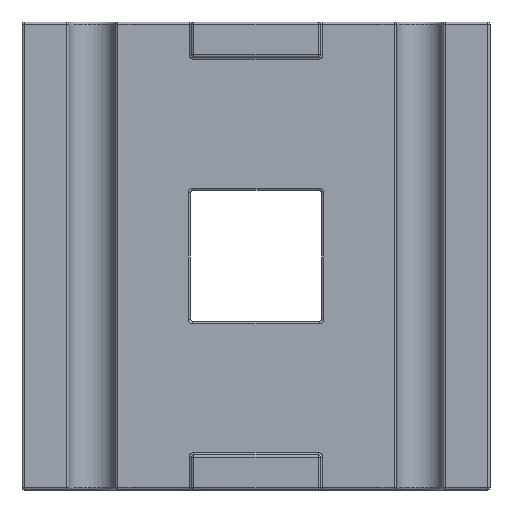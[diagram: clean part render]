
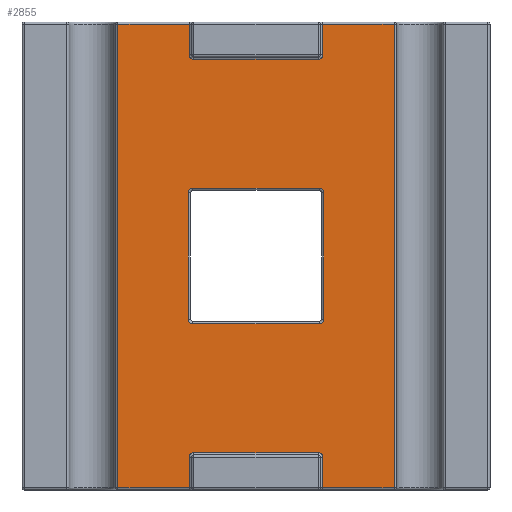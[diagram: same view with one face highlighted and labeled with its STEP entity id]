
A CAD part, left-side view. The second image highlights one B-rep face of the part: STEP entity #2855.
In plain terms, the highlighted planar face has unit normal (-1, 0, 0).
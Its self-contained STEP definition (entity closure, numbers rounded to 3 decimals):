
#132=CARTESIAN_POINT('',(-6.,-14.3,-2.8));
#133=VERTEX_POINT('',#132);
#141=CARTESIAN_POINT('',(-6.,-14.7,-3.2));
#142=VERTEX_POINT('',#141);
#143=CARTESIAN_POINT('',(-6.,-14.7,-2.8));
#144=DIRECTION('',(-1.,0.0,0.0));
#145=DIRECTION('',(0.0,0.707,-0.707));
#146=AXIS2_PLACEMENT_3D('',#143,#144,#145);
#147=CIRCLE('',#146,0.4);
#148=EDGE_CURVE('',#133,#142,#147,.T.);
#224=CARTESIAN_POINT('',(-6.,-25.3,-3.2));
#225=VERTEX_POINT('',#224);
#233=CARTESIAN_POINT('',(-6.,-25.7,-2.8));
#234=VERTEX_POINT('',#233);
#235=CARTESIAN_POINT('',(-6.,-25.3,-2.8));
#236=DIRECTION('',(-1.,0.,0.));
#237=DIRECTION('',(0.,-0.707,-0.707));
#238=AXIS2_PLACEMENT_3D('',#235,#236,#237);
#239=CIRCLE('',#238,0.4);
#240=EDGE_CURVE('',#225,#234,#239,.T.);
#265=CARTESIAN_POINT('',(-6.,-14.7,-3.2));
#266=DIRECTION('',(0.0,-1.0,0.0));
#267=VECTOR('',#266,10.6);
#268=LINE('',#265,#267);
#269=EDGE_CURVE('',#142,#225,#268,.T.);
#281=CARTESIAN_POINT('',(-6.,-14.3,-0.2));
#282=VERTEX_POINT('',#281);
#343=CARTESIAN_POINT('',(-6.,-25.7,-0.2));
#344=VERTEX_POINT('',#343);
#684=CARTESIAN_POINT('',(-6.,-25.7,-2.8));
#685=DIRECTION('',(0.0,0.0,1.0));
#686=VECTOR('',#685,2.6);
#687=LINE('',#684,#686);
#688=EDGE_CURVE('',#234,#344,#687,.T.);
#716=CARTESIAN_POINT('',(-6.,-14.3,-39.8));
#717=VERTEX_POINT('',#716);
#749=CARTESIAN_POINT('',(-6.,-25.7,-39.8));
#750=VERTEX_POINT('',#749);
#841=CARTESIAN_POINT('',(-6.,-14.7,-36.8));
#842=VERTEX_POINT('',#841);
#843=CARTESIAN_POINT('',(-6.,-14.3,-37.2));
#844=VERTEX_POINT('',#843);
#845=CARTESIAN_POINT('',(-6.,-14.7,-37.2));
#846=DIRECTION('',(-1.,0.0,0.0));
#847=DIRECTION('',(0.0,0.707,0.707));
#848=AXIS2_PLACEMENT_3D('',#845,#846,#847);
#849=CIRCLE('',#848,0.4);
#850=EDGE_CURVE('',#842,#844,#849,.T.);
#893=CARTESIAN_POINT('',(-6.,-14.3,-37.2));
#894=DIRECTION('',(0.0,0.0,-1.0));
#895=VECTOR('',#894,2.6);
#896=LINE('',#893,#895);
#897=EDGE_CURVE('',#844,#717,#896,.T.);
#966=CARTESIAN_POINT('',(-6.,-25.7,-37.2));
#967=VERTEX_POINT('',#966);
#975=CARTESIAN_POINT('',(-6.,-25.3,-36.8));
#976=VERTEX_POINT('',#975);
#977=CARTESIAN_POINT('',(-6.,-25.3,-37.2));
#978=DIRECTION('',(-1.,0.0,0.0));
#979=DIRECTION('',(0.0,-0.707,0.707));
#980=AXIS2_PLACEMENT_3D('',#977,#978,#979);
#981=CIRCLE('',#980,0.4);
#982=EDGE_CURVE('',#967,#976,#981,.T.);
#1000=CARTESIAN_POINT('',(-6.,-25.7,-39.8));
#1001=DIRECTION('',(0.0,0.0,1.0));
#1002=VECTOR('',#1001,2.6);
#1003=LINE('',#1000,#1002);
#1004=EDGE_CURVE('',#750,#967,#1003,.T.);
#1029=CARTESIAN_POINT('',(-6.,-25.3,-36.8));
#1030=DIRECTION('',(0.0,1.0,0.0));
#1031=VECTOR('',#1030,10.6);
#1032=LINE('',#1029,#1031);
#1033=EDGE_CURVE('',#976,#842,#1032,.T.);
#1615=CARTESIAN_POINT('',(-6.,-8.2,-0.2));
#1616=VERTEX_POINT('',#1615);
#1650=CARTESIAN_POINT('',(-6.,-8.2,-39.8));
#1651=VERTEX_POINT('',#1650);
#1675=CARTESIAN_POINT('',(-6.,-14.3,-39.8));
#1676=DIRECTION('',(0.0,1.0,0.0));
#1677=VECTOR('',#1676,6.1);
#1678=LINE('',#1675,#1677);
#1679=EDGE_CURVE('',#717,#1651,#1678,.T.);
#1697=CARTESIAN_POINT('',(-6.,-8.2,-39.8));
#1698=DIRECTION('',(0.0,0.0,1.0));
#1699=VECTOR('',#1698,39.6);
#1700=LINE('',#1697,#1699);
#1701=EDGE_CURVE('',#1651,#1616,#1700,.T.);
#1790=CARTESIAN_POINT('',(-6.,-8.2,-0.2));
#1791=DIRECTION('',(0.0,-1.0,0.0));
#1792=VECTOR('',#1791,6.1);
#1793=LINE('',#1790,#1792);
#1794=EDGE_CURVE('',#1616,#282,#1793,.T.);
#2139=CARTESIAN_POINT('',(-6.,-31.8,-0.2));
#2140=VERTEX_POINT('',#2139);
#2174=CARTESIAN_POINT('',(-6.,-31.8,-39.8));
#2175=VERTEX_POINT('',#2174);
#2208=CARTESIAN_POINT('',(-6.,-31.8,-39.8));
#2209=DIRECTION('',(0.0,1.0,0.0));
#2210=VECTOR('',#2209,6.1);
#2211=LINE('',#2208,#2210);
#2212=EDGE_CURVE('',#2175,#750,#2211,.T.);
#2237=CARTESIAN_POINT('',(-6.,-31.8,-0.2));
#2238=DIRECTION('',(0.0,0.0,-1.0));
#2239=VECTOR('',#2238,39.6);
#2240=LINE('',#2237,#2239);
#2241=EDGE_CURVE('',#2140,#2175,#2240,.T.);
#2291=CARTESIAN_POINT('',(-6.,-25.7,-0.2));
#2292=DIRECTION('',(0.0,-1.0,0.0));
#2293=VECTOR('',#2292,6.1);
#2294=LINE('',#2291,#2293);
#2295=EDGE_CURVE('',#344,#2140,#2294,.T.);
#2635=CARTESIAN_POINT('',(-6.,-14.3,-0.2));
#2636=DIRECTION('',(0.0,0.0,-1.0));
#2637=VECTOR('',#2636,2.6);
#2638=LINE('',#2635,#2637);
#2639=EDGE_CURVE('',#282,#133,#2638,.T.);
#2762=CARTESIAN_POINT('',(-6.,-8.,0.0));
#2763=DIRECTION('',(-1.0,0.0,0.0));
#2764=DIRECTION('',(0.0,0.0,1.0));
#2765=AXIS2_PLACEMENT_3D('',#2762,#2763,#2764);
#2766=PLANE('',#2765);
#2767=ORIENTED_EDGE('',*,*,#982,.F.);
#2768=ORIENTED_EDGE('',*,*,#1004,.F.);
#2769=ORIENTED_EDGE('',*,*,#2212,.F.);
#2770=ORIENTED_EDGE('',*,*,#2241,.F.);
#2771=ORIENTED_EDGE('',*,*,#2295,.F.);
#2772=ORIENTED_EDGE('',*,*,#688,.F.);
#2773=ORIENTED_EDGE('',*,*,#240,.F.);
#2774=ORIENTED_EDGE('',*,*,#269,.F.);
#2775=ORIENTED_EDGE('',*,*,#148,.F.);
#2776=ORIENTED_EDGE('',*,*,#2639,.F.);
#2777=ORIENTED_EDGE('',*,*,#1794,.F.);
#2778=ORIENTED_EDGE('',*,*,#1701,.F.);
#2779=ORIENTED_EDGE('',*,*,#1679,.F.);
#2780=ORIENTED_EDGE('',*,*,#897,.F.);
#2781=ORIENTED_EDGE('',*,*,#850,.F.);
#2782=ORIENTED_EDGE('',*,*,#1033,.F.);
#2783=EDGE_LOOP('',(#2767,#2768,#2769,#2770,#2771,#2772,#2773,#2774,#2775,#2776,#2777,#2778,#2779,#2780,#2781,#2782));
#2784=FACE_OUTER_BOUND('',#2783,.T.);
#2785=CARTESIAN_POINT('',(-6.,-14.2,-25.4));
#2786=VERTEX_POINT('',#2785);
#2787=CARTESIAN_POINT('',(-6.,-14.6,-25.8));
#2788=VERTEX_POINT('',#2787);
#2789=CARTESIAN_POINT('',(-6.,-14.6,-25.4));
#2790=DIRECTION('',(-1.0,0.0,0.0));
#2791=DIRECTION('',(0.0,0.707,-0.707));
#2792=AXIS2_PLACEMENT_3D('',#2789,#2790,#2791);
#2793=CIRCLE('',#2792,0.4);
#2794=EDGE_CURVE('',#2786,#2788,#2793,.T.);
#2795=ORIENTED_EDGE('',*,*,#2794,.F.);
#2796=CARTESIAN_POINT('',(-6.,-14.2,-14.6));
#2797=VERTEX_POINT('',#2796);
#2798=CARTESIAN_POINT('',(-6.,-14.2,-14.6));
#2799=DIRECTION('',(0.0,0.0,-1.0));
#2800=VECTOR('',#2799,10.8);
#2801=LINE('',#2798,#2800);
#2802=EDGE_CURVE('',#2797,#2786,#2801,.T.);
#2803=ORIENTED_EDGE('',*,*,#2802,.F.);
#2804=CARTESIAN_POINT('',(-6.,-14.6,-14.2));
#2805=VERTEX_POINT('',#2804);
#2806=CARTESIAN_POINT('',(-6.,-14.6,-14.6));
#2807=DIRECTION('',(-1.,0.0,0.0));
#2808=DIRECTION('',(0.0,0.707,0.707));
#2809=AXIS2_PLACEMENT_3D('',#2806,#2807,#2808);
#2810=CIRCLE('',#2809,0.4);
#2811=EDGE_CURVE('',#2805,#2797,#2810,.T.);
#2812=ORIENTED_EDGE('',*,*,#2811,.F.);
#2813=CARTESIAN_POINT('',(-6.,-25.4,-14.2));
#2814=VERTEX_POINT('',#2813);
#2815=CARTESIAN_POINT('',(-6.,-25.4,-14.2));
#2816=DIRECTION('',(0.0,1.0,0.0));
#2817=VECTOR('',#2816,10.8);
#2818=LINE('',#2815,#2817);
#2819=EDGE_CURVE('',#2814,#2805,#2818,.T.);
#2820=ORIENTED_EDGE('',*,*,#2819,.F.);
#2821=CARTESIAN_POINT('',(-6.,-25.8,-14.6));
#2822=VERTEX_POINT('',#2821);
#2823=CARTESIAN_POINT('',(-6.,-25.4,-14.6));
#2824=DIRECTION('',(-1.,0.0,0.0));
#2825=DIRECTION('',(0.0,-0.707,0.707));
#2826=AXIS2_PLACEMENT_3D('',#2823,#2824,#2825);
#2827=CIRCLE('',#2826,0.4);
#2828=EDGE_CURVE('',#2822,#2814,#2827,.T.);
#2829=ORIENTED_EDGE('',*,*,#2828,.F.);
#2830=CARTESIAN_POINT('',(-6.,-25.8,-25.4));
#2831=VERTEX_POINT('',#2830);
#2832=CARTESIAN_POINT('',(-6.,-25.8,-25.4));
#2833=DIRECTION('',(0.0,0.0,1.0));
#2834=VECTOR('',#2833,10.8);
#2835=LINE('',#2832,#2834);
#2836=EDGE_CURVE('',#2831,#2822,#2835,.T.);
#2837=ORIENTED_EDGE('',*,*,#2836,.F.);
#2838=CARTESIAN_POINT('',(-6.,-25.4,-25.8));
#2839=VERTEX_POINT('',#2838);
#2840=CARTESIAN_POINT('',(-6.,-25.4,-25.4));
#2841=DIRECTION('',(-1.,0.0,0.0));
#2842=DIRECTION('',(0.0,-0.707,-0.707));
#2843=AXIS2_PLACEMENT_3D('',#2840,#2841,#2842);
#2844=CIRCLE('',#2843,0.4);
#2845=EDGE_CURVE('',#2839,#2831,#2844,.T.);
#2846=ORIENTED_EDGE('',*,*,#2845,.F.);
#2847=CARTESIAN_POINT('',(-6.0,-14.6,-25.8));
#2848=DIRECTION('',(0.0,-1.0,0.0));
#2849=VECTOR('',#2848,10.8);
#2850=LINE('',#2847,#2849);
#2851=EDGE_CURVE('',#2788,#2839,#2850,.T.);
#2852=ORIENTED_EDGE('',*,*,#2851,.F.);
#2853=EDGE_LOOP('',(#2795,#2803,#2812,#2820,#2829,#2837,#2846,#2852));
#2854=FACE_BOUND('',#2853,.T.);
#2855=ADVANCED_FACE('',(#2784,#2854),#2766,.T.);
